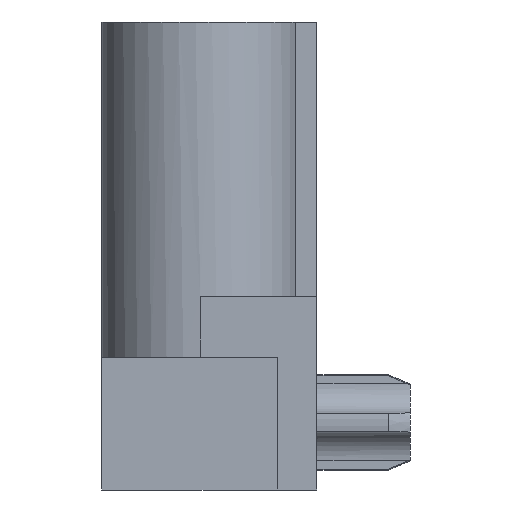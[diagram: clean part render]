
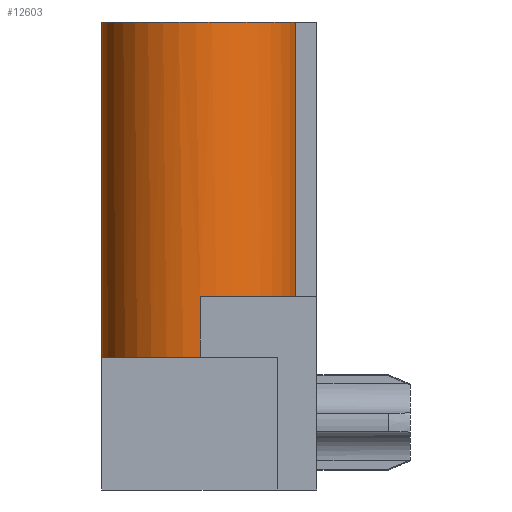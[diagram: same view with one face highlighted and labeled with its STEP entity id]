
A CAD part, left-side view. The second image highlights one B-rep face of the part: STEP entity #12603.
In plain terms, the highlighted cylindrical face has radius 3.43 mm (diameter 6.86 mm), a partial arc.
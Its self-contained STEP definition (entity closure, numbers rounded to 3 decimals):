
#2717=CARTESIAN_POINT('',(-24.45,-0.04,-1.41));
#2718=DIRECTION('',(0.,0.,1.));
#2719=DIRECTION('',(-1.,0.,0.));
#2720=AXIS2_PLACEMENT_3D('',#2717,#2718,#2719);
#3264=CARTESIAN_POINT('',(-24.45,-0.04,-3.52));
#3265=DIRECTION('',(0.,0.,1.));
#3266=DIRECTION('',(0.,1.,0.));
#3267=AXIS2_PLACEMENT_3D('',#3264,#3265,#3266);
#3423=CARTESIAN_POINT('',(-24.45,-0.04,8.14));
#3424=DIRECTION('',(0.,0.,1.));
#3425=DIRECTION('',(0.,1.,0.));
#3426=AXIS2_PLACEMENT_3D('',#3423,#3424,#3425);
#4379=DIRECTION('',(0.,0.,1.));
#4380=VECTOR('',#4379,2.11);
#4381=CARTESIAN_POINT('',(-27.88,-0.04,-3.52));
#4382=LINE('',#4381,#4380);
#4395=DIRECTION('',(0.,0.,1.));
#4396=VECTOR('',#4395,11.66);
#4397=CARTESIAN_POINT('',(-24.45,3.39,-3.52));
#4398=LINE('',#4397,#4396);
#4399=DIRECTION('',(0.,0.,-1.));
#4400=VECTOR('',#4399,9.55);
#4401=CARTESIAN_POINT('',(-25.35,-3.35,8.14));
#4402=LINE('',#4401,#4400);
#4977=CARTESIAN_POINT('',(-24.45,3.39,8.14));
#4978=CARTESIAN_POINT('',(-25.35,-3.35,8.14));
#4979=VERTEX_POINT('',#4977);
#4980=VERTEX_POINT('',#4978);
#4984=CARTESIAN_POINT('',(-25.35,-3.35,-1.41));
#4986=VERTEX_POINT('',#4984);
#5059=CARTESIAN_POINT('',(-27.88,-0.04,-3.52));
#5060=CARTESIAN_POINT('',(-27.88,-0.04,-1.41));
#5061=VERTEX_POINT('',#5059);
#5062=VERTEX_POINT('',#5060);
#5067=CARTESIAN_POINT('',(-24.45,3.39,-3.52));
#5068=VERTEX_POINT('',#5067);
#12589=CARTESIAN_POINT('',(-24.45,-0.04,8.14));
#12590=DIRECTION('',(0.,0.,1.));
#12591=DIRECTION('',(1.,0.,0.));
#12592=AXIS2_PLACEMENT_3D('',#12589,#12590,#12591);
#12593=CYLINDRICAL_SURFACE('',#12592,3.43);
#12594=ORIENTED_EDGE('',*,*,#10034,.F.);
#12595=ORIENTED_EDGE('',*,*,#12578,.F.);
#12596=ORIENTED_EDGE('',*,*,#10954,.F.);
#12597=ORIENTED_EDGE('',*,*,#12299,.T.);
#12598=ORIENTED_EDGE('',*,*,#11131,.T.);
#12600=ORIENTED_EDGE('',*,*,#12599,.T.);
#12601=EDGE_LOOP('',(#12594,#12595,#12596,#12597,#12598,#12600));
#12602=FACE_OUTER_BOUND('',#12601,.F.);
#12603=ADVANCED_FACE('',(#12602),#12593,.T.);
#2721=CIRCLE('',#2720,3.43);
#3268=CIRCLE('',#3267,3.43);
#3427=CIRCLE('',#3426,3.43);
#10034=EDGE_CURVE('',#5062,#4986,#2721,.T.);
#10954=EDGE_CURVE('',#5068,#5061,#3268,.T.);
#11131=EDGE_CURVE('',#4979,#4980,#3427,.T.);
#12299=EDGE_CURVE('',#5068,#4979,#4398,.T.);
#12578=EDGE_CURVE('',#5061,#5062,#4382,.T.);
#12599=EDGE_CURVE('',#4980,#4986,#4402,.T.);
